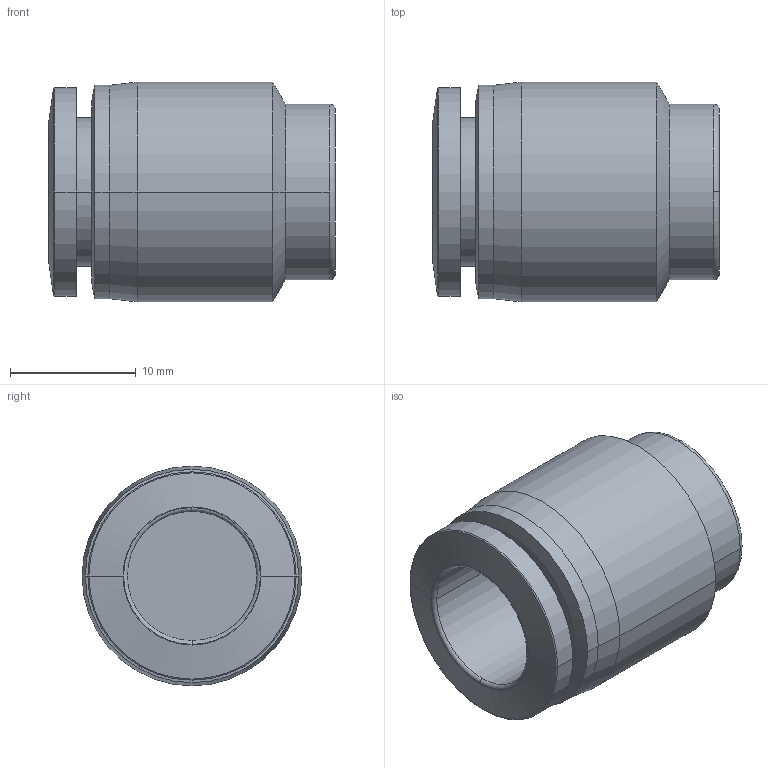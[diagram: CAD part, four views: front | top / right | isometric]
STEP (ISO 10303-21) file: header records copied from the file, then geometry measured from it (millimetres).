
FILE_DESCRIPTION (( 'STEP AP203' ), '1' );
FILE_NAME ('FC10-00.STEP', '2020-05-13T10:10:10', ( '' ), ( '' ), 'SwSTEP 2.0', 'SolidWorks 2019', '' );
FILE_SCHEMA (( 'CONFIG_CONTROL_DESIGN' ));
Length unit declared in the file: millimetre
Products named in the file (1): FC10-00
Bounding box: 22.85 x 17.5 x 17.5 mm (x, y, z)
Volume: 3135.8 mm3; surface area: 2428.5 mm2
Topology: 1 solids, 1 shells, 31 faces, 68 edges, 42 vertices
Faces by surface type: cylinder 12, cone 8, torus 6, plane 5
Entity records: 947 total; most frequent: DIRECTION 180, CARTESIAN_POINT 142, ORIENTED_EDGE 136, AXIS2_PLACEMENT_3D 80, EDGE_CURVE 68, CIRCLE 48, VERTEX_POINT 42, EDGE_LOOP 34
